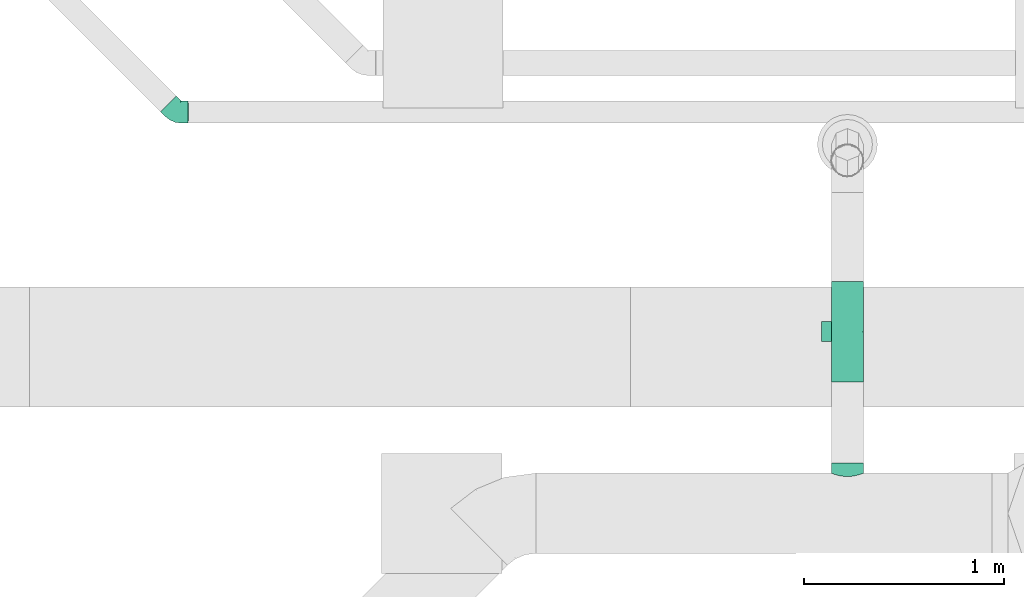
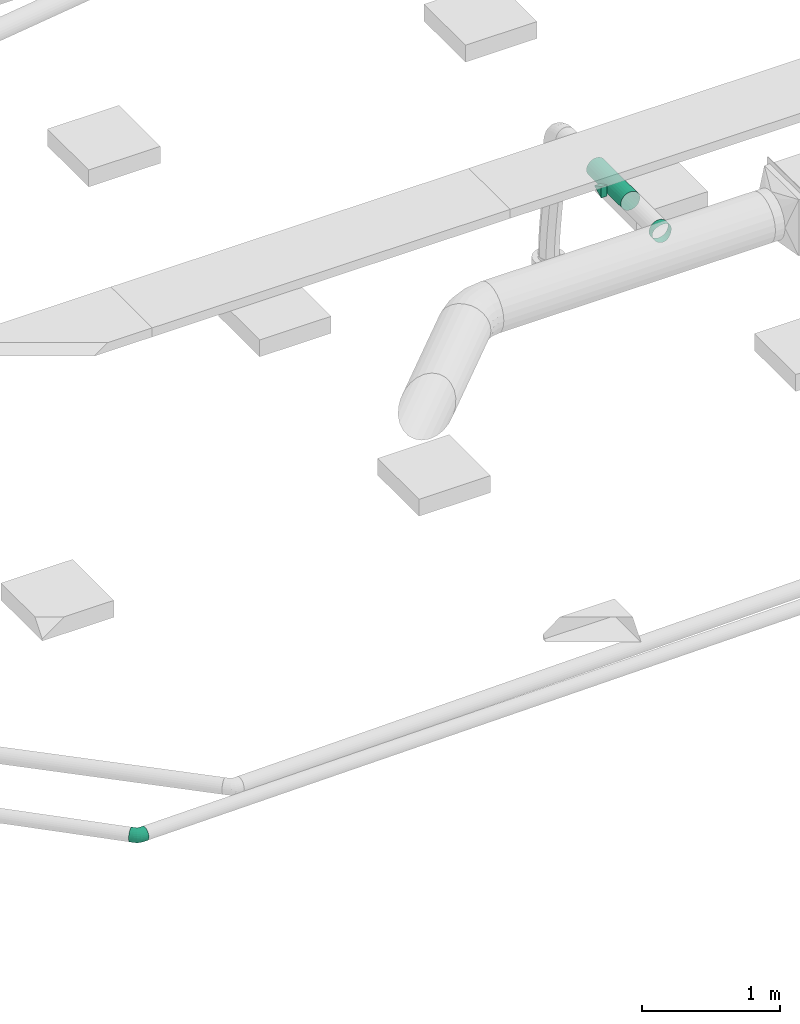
# One storey, part 148 of 374: 1 flow controller, 1 flow fitting, 1 flow segment.
"""IFC2X3 building model written with IfcOpenShell, lengths in metres."""

import ifcopenshell
import ifcopenshell.guid

model = None  # the IFC model being written
_history = None  # IfcOwnerHistory: only IFC2X3 demands one
_inside = {}  # id of a spatial element -> (the spatial element, [elements in it])
_under = {}  # id of a project, library or spatial element -> (it, [spatial elements below it])
_declared = {}  # id of a project -> (the project, [libraries it declares])
_typed = {}  # id of a type object -> (the type object, [elements of that type])
_made_of = {}  # id of a material, layer set ... -> (it, [elements and type objects made of it])


def new_model(schema):
    """Start an empty IFC model of exactly this schema.

    Asked for "IFC4X3", IfcOpenShell would pick the latest addendum, in which some entities
    have other attributes; the version numbers below select the first issue.
    IFC2X3 requires an IfcOwnerHistory on every rooted entity: one is made here for all.
    """
    global model, _history
    if schema == "IFC4X3":
        model = ifcopenshell.file(schema_version=(4, 3, 0, 0))
    else:
        model = ifcopenshell.file(schema=schema)
    _inside.clear()
    _under.clear()
    _declared.clear()
    _typed.clear()
    _made_of.clear()
    _history = None
    if model.schema == "IFC2X3":
        org = make("IfcOrganization", Name="unknown")
        user = make(
            "IfcPersonAndOrganization",
            ThePerson=make("IfcPerson", FamilyName="unknown"),
            TheOrganization=org,
        )
        app = make(
            "IfcApplication",
            ApplicationDeveloper=org,
            Version="unknown",
            ApplicationFullName="unknown",
            ApplicationIdentifier="unknown",
        )
        _history = make(
            "IfcOwnerHistory",
            OwningUser=user,
            OwningApplication=app,
            ChangeAction="ADDED",
            CreationDate=0,
        )
    return model


def make(cls, **values):
    """One entity of the class cls with the attributes given. An attribute that is None is left unset."""
    return model.create_entity(
        cls, **{name: value for name, value in values.items() if value is not None}
    )


def rooted(cls, **values):
    """An entity with a GlobalId (a new one), such as an element, a storey or a relation."""
    return make(cls, GlobalId=ifcopenshell.guid.new(), OwnerHistory=_history, **values)


def si_unit(unit_type, name, prefix=None):
    """IfcSIUnit, for example si_unit("LENGTHUNIT", "METRE", prefix="MILLI")."""
    return make("IfcSIUnit", UnitType=unit_type, Prefix=prefix, Name=name)


def assignment(units):
    """IfcUnitAssignment: the units of a project."""
    return None if units is None else make("IfcUnitAssignment", Units=units)


def point(xyz):
    """IfcCartesianPoint."""
    return None if xyz is None else make("IfcCartesianPoint", Coordinates=xyz)


def direction(xyz):
    """IfcDirection."""
    return None if xyz is None else make("IfcDirection", DirectionRatios=xyz)


def frame(location, z_axis=None, x_axis=None):
    """IfcAxis2Placement3D, a coordinate frame: its origin and axes. An axis left out is left unset."""
    return make(
        "IfcAxis2Placement3D",
        Location=point(location),
        Axis=direction(z_axis),
        RefDirection=direction(x_axis),
    )


def origin():
    """The frame at (0, 0, 0) with its axes left unset."""
    return frame((0.0, 0.0, 0.0))


def place(relative_to, where):
    """IfcLocalPlacement: puts the frame where relative to a parent placement (None: the world)."""
    return make(
        "IfcLocalPlacement", PlacementRelTo=relative_to, RelativePlacement=where
    )


def context(
    kind, dimensions, precision=None, world=None, true_north=None, identifier=None
):
    """IfcGeometricRepresentationContext, for example the 3D "Model" context."""
    return make(
        "IfcGeometricRepresentationContext",
        ContextIdentifier=identifier,
        ContextType=kind,
        CoordinateSpaceDimension=dimensions,
        Precision=precision,
        WorldCoordinateSystem=world,
        TrueNorth=true_north,
    )


def subcontext(parent, identifier, kind, view, scale=None):
    """IfcGeometricRepresentationSubContext, for example "Body" below "Model"."""
    return make(
        "IfcGeometricRepresentationSubContext",
        ContextIdentifier=identifier,
        ContextType=kind,
        ParentContext=parent,
        TargetScale=scale,
        TargetView=view,
    )


def project(units=None, contexts=None):
    """IfcProject with its units and contexts."""
    return rooted(
        "IfcProject",
        Name="project",
        RepresentationContexts=contexts,
        UnitsInContext=assignment(units),
    )


def spatial(cls, under=None, at=None, **own):
    """A site, building, storey or space (cls), placed at a placement, below another one or the project."""
    s = rooted(cls, ObjectPlacement=at, **own)
    if under is not None:
        _under.setdefault(under.id(), (under, []))[1].append(s)
    return s


def faces_of(points, faces, orient=None, outer=None):
    """IfcFace entities. A face is a list of loops; a loop is a list of indices into points, from 0.

    orient and outer hold one flag for each loop. By default every Orientation is true, the
    first loop of a face is its IfcFaceOuterBound and the others are IfcFaceBound.
    """
    made = []
    for i, loops in enumerate(faces):
        bounds = []
        for j, loop in enumerate(loops):
            is_outer = j == 0 if outer is None else outer[i][j]
            bounds.append(
                make(
                    "IfcFaceOuterBound" if is_outer else "IfcFaceBound",
                    Bound=make("IfcPolyLoop", Polygon=[points[k] for k in loop]),
                    Orientation=True if orient is None else orient[i][j],
                )
            )
        made.append(make("IfcFace", Bounds=bounds))
    return made


def open_shell(faces, orient=None, outer=None):
    """The faces of one IfcOpenShell. surface_model builds it on its shared points."""
    return ("IfcOpenShell", faces, orient, outer)


def surface_model(cls, points, shells):
    """IfcFaceBasedSurfaceModel or IfcShellBasedSurfaceModel (cls): surfaces that need not close."""
    shared = [point(p) for p in points]
    made = [make(c, CfsFaces=faces_of(shared, fs, o, b)) for c, fs, o, b in shells]
    if cls == "IfcFaceBasedSurfaceModel":
        return make(cls, FbsmFaces=made)
    return make(cls, SbsmBoundary=made)


def shape(context_of_items, identifier, shape_type, items):
    """IfcShapeRepresentation: the items that make up one representation, for example the "Body"."""
    return make(
        "IfcShapeRepresentation",
        ContextOfItems=context_of_items,
        RepresentationIdentifier=identifier,
        RepresentationType=shape_type,
        Items=items,
    )


def source(mapping_origin, context_of_items, identifier, shape_type, items):
    """IfcRepresentationMap: a shape defined once, which mapped items show again and again."""
    return make(
        "IfcRepresentationMap",
        MappingOrigin=mapping_origin,
        MappedRepresentation=shape(context_of_items, identifier, shape_type, items),
    )


def transform(
    local_origin,
    x_axis=None,
    y_axis=None,
    z_axis=None,
    scale=None,
    scale2=None,
    scale3=None,
    uniform=True,
):
    """IfcCartesianTransformationOperator3D, or its non-uniform kind. x_axis, y_axis, z_axis: its Axis1, 2, 3."""
    if uniform:
        return make(
            "IfcCartesianTransformationOperator3D",
            Axis1=direction(x_axis),
            Axis2=direction(y_axis),
            LocalOrigin=point(local_origin),
            Scale=scale,
            Axis3=direction(z_axis),
        )
    return make(
        "IfcCartesianTransformationOperator3DnonUniform",
        Axis1=direction(x_axis),
        Axis2=direction(y_axis),
        LocalOrigin=point(local_origin),
        Scale=scale,
        Axis3=direction(z_axis),
        Scale2=scale2,
        Scale3=scale3,
    )


def mapped(mapping_source, mapping_target):
    """IfcMappedItem: shows the shape of a source again, moved by a transform."""
    return make(
        "IfcMappedItem", MappingSource=mapping_source, MappingTarget=mapping_target
    )


def made_of(thing, what):
    """Note that an element or type object is made of a material, layer set ...; save() writes the relation."""
    if what is not None:
        _made_of.setdefault(what.id(), (what, []))[1].append(thing)
    return thing


def element(
    cls,
    number,
    at=None,
    inside=None,
    cuts=None,
    type_object=None,
    material=None,
    context=None,
    identifier="Body",
    shape_type=None,
    held_by="IfcProductDefinitionShape",
    body=None,
    shapes=None,
    **own,
):
    """One element of the class cls, such as IfcWall. Its Tag is "e" and its number.

    at: its placement. inside: the storey or other place that contains it. cuts: it is an
    opening in that element (IfcRelVoidsElement). A single representation is given by context,
    identifier, shape_type and body (its items); several are given by shapes. held_by: the class
    of the entity that holds the representations. save() writes the other relations.
    """
    e = rooted(cls, Tag="e%d" % number, ObjectPlacement=at, **own)
    if body is not None:
        shapes = [shape(context, identifier, shape_type, body)]
    if shapes is not None:
        e.Representation = make(held_by, Representations=shapes)
    if inside is not None:
        _inside.setdefault(inside.id(), (inside, []))[1].append(e)
    if cuts is not None:
        rooted(
            "IfcRelVoidsElement", RelatingBuildingElement=cuts, RelatedOpeningElement=e
        )
    if type_object is not None:
        _typed.setdefault(type_object.id(), (type_object, []))[1].append(e)
    return made_of(e, material)


def aggregate(whole, parts):
    """IfcRelAggregates: a whole, such as a stair, and the parts it consists of."""
    return rooted("IfcRelAggregates", RelatingObject=whole, RelatedObjects=parts)


def save(model, path):
    """Write the relations noted so far, then the file.

    IfcRelAggregates (storeys below a building ...), IfcRelContainedInSpatialStructure (elements
    in a storey), IfcRelDefinesByType, IfcRelAssociatesMaterial and IfcRelDeclares: one each for
    every whole, place, type object, material and project.
    """
    for whole, parts in _under.values():
        aggregate(whole, parts)
    for where, things in _inside.values():
        rooted(
            "IfcRelContainedInSpatialStructure",
            RelatedElements=things,
            RelatingStructure=where,
        )
    for kind, things in _typed.values():
        rooted("IfcRelDefinesByType", RelatedObjects=things, RelatingType=kind)
    for what, things in _made_of.values():
        rooted("IfcRelAssociatesMaterial", RelatedObjects=things, RelatingMaterial=what)
    for by, libraries in _declared.values():
        rooted("IfcRelDeclares", RelatingContext=by, RelatedDefinitions=libraries)
    model.write(path)


model = new_model("IFC2X3")

# Units and contexts
model_context = context("Model", 3, precision=1e-05, world=origin(), true_north=direction((-0.4480736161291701, 0.8939966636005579)))
body_context = subcontext(model_context, "Body", "Model", "MODEL_VIEW")
ifc_project = project(units=[si_unit("LENGTHUNIT", "METRE"), si_unit("AREAUNIT", "SQUARE_METRE"), si_unit("VOLUMEUNIT", "CUBIC_METRE"), si_unit("PLANEANGLEUNIT", "RADIAN"), si_unit("THERMODYNAMICTEMPERATUREUNIT", "KELVIN"), si_unit("MASSUNIT", "GRAM", prefix="KILO"), si_unit("TIMEUNIT", "SECOND")], contexts=[model_context])

# Site, building, storey
site_placement = place(None, origin())
site = spatial("IfcSite", under=ifc_project, at=site_placement, Name="Site 1", CompositionType="ELEMENT")
building_placement = place(site_placement, origin())
building = spatial("IfcBuilding", under=site, at=building_placement, Name="Undefined", CompositionType="ELEMENT")
storey_placement = place(building_placement, origin())
storey = spatial("IfcBuildingStorey", under=building, at=storey_placement, Name="Rez de chauss\x8ee", CompositionType="ELEMENT", Elevation=0.0)

# Flow segment
shared_shape_1 = source(origin(), body_context, "Body", "SurfaceModel", [
    surface_model("IfcFaceBasedSurfaceModel", [(0.001074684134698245, 0.0208841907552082, 0.0), (0.0, 0.0, 0.0), (0.05107468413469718, 0.0, 0.0), (0.05107468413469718, 0.0208841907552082, 0.0), (-0.002966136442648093, -0.02017257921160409, -0.005405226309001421), (0.05107468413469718, -0.02017257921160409, -0.005405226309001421), (-0.007092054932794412, -0.03825881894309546, -0.01584732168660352), (0.05107468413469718, -0.03825881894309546, -0.01584732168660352), (-0.011308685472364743, -0.0530261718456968, -0.030614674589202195), (0.05107468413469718, -0.0530261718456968, -0.030614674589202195), (-0.014456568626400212, -0.06346826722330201, -0.04870091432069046), (0.05107468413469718, -0.06346826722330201, -0.04870091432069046), (-0.015622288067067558, -0.06887349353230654, -0.0688734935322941), (0.05107468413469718, -0.06887349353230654, -0.0688734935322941), (-0.014456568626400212, -0.06887349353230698, -0.08975768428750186), (0.05107468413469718, -0.06887349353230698, -0.08975768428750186), (-0.011308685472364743, -0.06346826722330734, -0.10993026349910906), (0.05107468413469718, -0.06346826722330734, -0.10993026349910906), (-0.007092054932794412, -0.053026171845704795, -0.12801650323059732), (0.05107468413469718, -0.053026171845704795, -0.12801650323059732), (-0.002966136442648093, -0.03825881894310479, -0.1427838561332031), (0.05107468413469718, -0.03825881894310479, -0.1427838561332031), (0.0, -0.020172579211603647, -0.15322595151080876), (0.05107468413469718, -0.020172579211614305, -0.1532259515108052), (0.001074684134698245, -1.2434497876e-14, -0.15863117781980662), (0.05107468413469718, -1.2434497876e-14, -0.15863117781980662), (0.0, 0.020884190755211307, -0.15863117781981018), (0.05107468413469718, 0.020884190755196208, -0.15863117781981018), (-0.002966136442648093, 0.04105676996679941, -0.1532259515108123), (0.05107468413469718, 0.04105676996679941, -0.1532259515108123), (-0.007092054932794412, 0.05914300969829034, -0.14278385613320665), (0.05107468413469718, 0.05914300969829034, -0.14278385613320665), (-0.011308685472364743, 0.07391036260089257, -0.12801650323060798), (0.05107468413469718, 0.07391036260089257, -0.12801650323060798), (-0.014456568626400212, 0.08435245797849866, -0.10993026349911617), (0.05107468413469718, 0.08435245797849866, -0.10993026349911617), (-0.015622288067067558, 0.08975768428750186, -0.08975768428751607), (0.05107468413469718, 0.08975768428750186, -0.08975768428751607), (-0.014456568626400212, 0.08975768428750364, -0.06887349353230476), (0.05107468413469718, 0.08975768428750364, -0.06887349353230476), (-0.011308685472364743, 0.0843524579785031, -0.048700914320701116), (0.05107468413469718, 0.0843524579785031, -0.048700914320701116), (-0.007092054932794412, 0.07391036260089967, -0.030614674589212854), (0.05107468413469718, 0.07391036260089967, -0.030614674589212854), (-0.002966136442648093, 0.05914300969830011, -0.015847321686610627), (0.05107468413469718, 0.05914300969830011, -0.015847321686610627), (0.0, 0.04105676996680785, -0.005405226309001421), (0.05107468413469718, 0.04105676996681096, -0.0054052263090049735)], [open_shell([[[0, 1, 2, 3]], [[1, 4, 5, 2]], [[4, 6, 7, 5]], [[6, 8, 9, 7]], [[8, 10, 11, 9]], [[10, 12, 13, 11]], [[12, 14, 15, 13]], [[14, 16, 17, 15]], [[16, 18, 19, 17]], [[18, 20, 21, 19]], [[20, 22, 23, 21]], [[22, 24, 25, 23]], [[24, 26, 27, 25]], [[26, 28, 29, 27]], [[28, 30, 31, 29]], [[30, 32, 33, 31]], [[32, 34, 35, 33]], [[34, 36, 37, 35]], [[36, 38, 39, 37]], [[38, 40, 41, 39]], [[40, 42, 43, 41]], [[42, 44, 45, 43]], [[44, 46, 47, 45]], [[46, 0, 3, 47]]])]),
])
flow_segment_placement = place(storey_placement, origin())
element("IfcFlowSegment", 1, at=flow_segment_placement, inside=storey, Name="Piquage équerre circulaire", ObjectType="Piquage équerre circulaire", context=body_context, shape_type="MappedRepresentation", body=[
    mapped(shared_shape_1, transform((44.36997424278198, 15.312499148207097, 3.779294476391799), x_axis=(0.0, 1.0, 0.0), y_axis=(0.1305261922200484, 0.0, 0.9914448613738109), z_axis=(0.9914448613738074, 0.0, -0.13052619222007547))),
])

# Flow fitting
shared_shape_2 = source(origin(), body_context, "Body", "SurfaceModel", [
    surface_model("IfcFaceBasedSurfaceModel", [(0.0, 0.014357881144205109, -3.552713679e-15), (0.0, 0.0, 0.0), (0.03509999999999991, 1.776356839e-15, -1.776356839e-15), (0.03509999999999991, 0.014357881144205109, 0.0), (0.0, -0.01386864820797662, -0.0037160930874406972), (0.035100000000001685, -0.01386864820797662, -0.003716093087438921), (0.0, -0.026302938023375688, -0.010895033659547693), (0.03509999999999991, -0.026302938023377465, -0.010895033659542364), (0.0, -0.03645549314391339, -0.021047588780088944), (0.035100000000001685, -0.03645549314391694, -0.021047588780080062), (0.0, -0.04363443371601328, -0.033481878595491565), (0.035100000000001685, -0.043634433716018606, -0.03348187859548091), (0.0, -0.04735052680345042, -0.04735052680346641), (0.03510000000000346, -0.04735052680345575, -0.04735052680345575), (0.0, -0.04735052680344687, -0.06170840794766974), (0.035100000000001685, -0.047350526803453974, -0.061708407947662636), (0.0, -0.04363443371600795, -0.07557705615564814), (0.035100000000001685, -0.04363443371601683, -0.07557705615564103), (0.0, -0.03645549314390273, -0.08801134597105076), (0.035100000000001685, -0.03645549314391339, -0.08801134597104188), (0.0, -0.026302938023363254, -0.0981639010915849), (0.03510000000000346, -0.026302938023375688, -0.09816390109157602), (0.0, -0.013868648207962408, -0.1053428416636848), (0.03510000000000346, -0.013868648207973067, -0.10534284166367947), (0.0, 1.5987211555e-14, -0.10905893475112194), (0.03510000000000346, 5.329070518e-15, -0.10905893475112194), (0.0, 0.014357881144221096, -0.10905893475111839), (0.035100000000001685, 0.014357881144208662, -0.10905893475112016), (0.0, 0.028226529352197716, -0.10534284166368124), (0.03510000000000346, 0.02822652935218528, -0.10534284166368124), (0.0, 0.040660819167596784, -0.0981639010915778), (0.03510000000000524, 0.040660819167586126, -0.09816390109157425), (0.0, 0.05081337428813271, -0.08801134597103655), (0.035100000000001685, 0.050813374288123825, -0.08801134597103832), (0.0, 0.05799231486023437, -0.07557705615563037), (0.035100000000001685, 0.05799231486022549, -0.07557705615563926), (0.0, 0.06170840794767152, -0.06170840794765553), (0.035100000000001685, 0.06170840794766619, -0.06170840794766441), (0.0, 0.061708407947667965, -0.0473505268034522), (0.035100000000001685, 0.061708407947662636, -0.0473505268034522), (0.0, 0.05799231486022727, -0.033481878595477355), (0.03510000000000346, 0.057992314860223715, -0.033481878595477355), (0.0, 0.050813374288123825, -0.021047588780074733), (0.035100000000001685, 0.05081337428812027, -0.021047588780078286), (0.0, 0.04066081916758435, -0.010895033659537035), (0.035100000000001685, 0.040660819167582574, -0.010895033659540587), (0.0, 0.028226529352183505, -0.0037160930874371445), (0.035100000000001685, 0.028226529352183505, -0.003716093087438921), (0.06308504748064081, -0.04369774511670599, -0.06218930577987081), (0.06357009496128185, -0.04363443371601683, -0.04783975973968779), (0.08916296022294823, -0.03298833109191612, -0.0635992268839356), (0.09010000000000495, -0.032739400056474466, -0.04927411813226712), (0.11155657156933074, -0.015952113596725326, -0.06584208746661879), (0.11288174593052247, -0.015407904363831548, -0.051555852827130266), (0.061662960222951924, -0.040167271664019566, -0.07603351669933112), (0.08641569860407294, -0.030002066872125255, -0.07737179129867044), (0.10767135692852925, -0.013831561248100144, -0.07950067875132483), (0.05940074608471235, -0.03328360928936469, -0.08842893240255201), (0.08204543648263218, -0.023984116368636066, -0.0896532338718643), (0.10149087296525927, -0.009190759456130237, -0.09160081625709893), (0.05645257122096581, -0.02351586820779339, -0.09853082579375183), (0.07635000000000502, -0.015344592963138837, -0.09960659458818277), (0.09343630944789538, -0.0023459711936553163, -0.10131789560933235), (0.053019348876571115, -0.011529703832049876, -0.1056507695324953), (0.06971752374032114, -0.004672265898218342, -0.10655356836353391), (0.08405657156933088, 0.006236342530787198, -0.10798971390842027), (0.049335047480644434, 0.0018580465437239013, -0.10930355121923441), (0.06260000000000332, 0.007305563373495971, -0.1100207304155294), (0.07399087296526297, 0.015971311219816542, -0.11116159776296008), (0.0456507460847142, 0.015735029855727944, -0.1092402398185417), (0.05548247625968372, 0.01977262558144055, -0.10977179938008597), (0.0639251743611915, 0.0261955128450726, -0.11061738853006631), (0.042217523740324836, 0.029155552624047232, -0.10546514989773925), (0.04885000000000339, 0.03187931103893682, -0.10582373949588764), (0.05454543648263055, 0.03621218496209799, -0.10639417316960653), (0.03926934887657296, 0.04120502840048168, -0.09823554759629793), (0.043154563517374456, 0.04280056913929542, -0.09844560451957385), (0.046490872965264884, 0.045338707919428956, -0.09877975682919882), (0.03700713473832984, 0.05106230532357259, -0.08804411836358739), (0.03878430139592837, 0.05179213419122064, -0.08814020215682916), (0.04031038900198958, 0.052953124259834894, -0.08829304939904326), (0.03558504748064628, 0.058055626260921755, -0.07558539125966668), (0.03603703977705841, 0.0582412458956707, -0.07560982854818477), (0.03642517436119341, 0.05853652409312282, -0.07564870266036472), (0.035585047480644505, 0.0617717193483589, -0.047358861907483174), (0.036037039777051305, 0.0619573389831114, -0.04738329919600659), (0.03642517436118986, 0.06225261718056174, -0.04742217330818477), (0.037007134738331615, 0.05824124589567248, -0.03351465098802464), (0.03878430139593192, 0.05897107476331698, -0.03361073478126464), (0.04031038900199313, 0.06013206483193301, -0.03376358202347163), (0.039269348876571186, 0.05135758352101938, -0.02111923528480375), (0.04315456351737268, 0.05295312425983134, -0.021329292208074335), (0.046490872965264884, 0.05549126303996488, -0.021663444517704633), (0.04221752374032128, 0.041589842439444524, -0.01101734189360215), (0.04884999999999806, 0.044313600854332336, -0.011375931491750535), (0.054545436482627, 0.04864647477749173, -0.01194636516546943), (0.04565074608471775, 0.029603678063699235, -0.003897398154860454), (0.05548247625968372, 0.03364127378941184, -0.004428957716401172), (0.0639251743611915, 0.040064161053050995, -0.005274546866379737), (0.04933504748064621, 0.016215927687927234, -0.0002446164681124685), (0.06260000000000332, 0.021663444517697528, -0.000961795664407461), (0.07399087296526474, 0.030329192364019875, -0.002102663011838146), (0.05301934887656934, 0.0023389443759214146, -0.0003079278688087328), (0.06971752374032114, 0.009196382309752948, -0.0012107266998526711), (0.08405657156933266, 0.020104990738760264, -0.0026468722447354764), (0.05645257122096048, -0.011081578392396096, -0.004083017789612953), (0.0763499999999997, -0.002910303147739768, -0.0051587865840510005), (0.09343630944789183, 0.010088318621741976, -0.006870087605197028), (0.059400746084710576, -0.023131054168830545, -0.011312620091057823), (0.08204543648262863, -0.01383156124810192, -0.012536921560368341), (0.1014908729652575, 0.0009617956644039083, -0.01448450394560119), (0.0616629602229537, -0.032988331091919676, -0.021504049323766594), (0.0864156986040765, -0.022823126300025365, -0.022842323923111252), (0.10767135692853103, -0.006652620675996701, -0.024971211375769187), (0.06308504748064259, -0.03998165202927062, -0.033962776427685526), (0.08916296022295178, -0.02927223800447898, -0.035372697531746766), (0.1115565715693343, -0.012236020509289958, -0.03761555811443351), (0.1363760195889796, 0.008655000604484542, -0.06908167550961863), (0.13770119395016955, 0.00919920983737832, -0.05479544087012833), (0.13249080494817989, 0.0107755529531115, -0.08274026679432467), (0.12631032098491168, 0.01541635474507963, -0.09484040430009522), (0.11825575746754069, 0.02226114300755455, -0.10455748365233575), (0.1088760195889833, 0.03084345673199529, -0.11122930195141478), (0.09881032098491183, 0.04057842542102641, -0.11440118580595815), (0.08874462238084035, 0.05080262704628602, -0.11385697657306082), (0.07936488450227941, 0.06081929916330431, -0.10963376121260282), (0.07131032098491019, 0.0699458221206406, -0.10201934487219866), (0.06512983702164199, 0.07756023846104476, -0.09153263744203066), (0.06124462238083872, 0.08314363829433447, -0.07888829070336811), (0.059919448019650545, 0.08631552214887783, -0.0649479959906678), (0.06124462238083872, 0.08685973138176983, -0.05066176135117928), (0.06512983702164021, 0.08473917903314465, -0.03700317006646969), (0.07131032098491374, 0.08009837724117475, -0.024903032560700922), (0.07936488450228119, 0.07325358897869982, -0.015185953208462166), (0.0887446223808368, 0.06467127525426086, -0.008514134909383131), (0.09881032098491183, 0.05493630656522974, -0.005342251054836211), (0.10887601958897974, 0.04471210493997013, -0.0058864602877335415), (0.11825575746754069, 0.03469543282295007, -0.010109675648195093), (0.1263103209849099, 0.02556890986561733, -0.017724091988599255), (0.13249080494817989, 0.017954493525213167, -0.0282107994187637), (0.13637601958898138, 0.012371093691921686, -0.04085514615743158)], [open_shell([[[0, 1, 2, 3]], [[1, 4, 5, 2]], [[4, 6, 7, 5]], [[6, 8, 9, 7]], [[8, 10, 11, 9]], [[10, 12, 13, 11]], [[12, 14, 15, 13]], [[14, 16, 17, 15]], [[16, 18, 19, 17]], [[18, 20, 21, 19]], [[20, 22, 23, 21]], [[22, 24, 25, 23]], [[24, 26, 27, 25]], [[26, 28, 29, 27]], [[28, 30, 31, 29]], [[30, 32, 33, 31]], [[32, 34, 35, 33]], [[34, 36, 37, 35]], [[36, 38, 39, 37]], [[38, 40, 41, 39]], [[40, 42, 43, 41]], [[42, 44, 45, 43]], [[44, 46, 47, 45]], [[46, 0, 3, 47]], [[13, 15, 48, 49]], [[49, 48, 50, 51]], [[51, 50, 52, 53]], [[15, 17, 54, 48]], [[48, 54, 55, 50]], [[50, 55, 56, 52]], [[17, 19, 57, 54]], [[54, 57, 58, 55]], [[55, 58, 59, 56]], [[19, 21, 60, 57]], [[57, 60, 61, 58]], [[58, 61, 62, 59]], [[21, 23, 63, 60]], [[60, 63, 64, 61]], [[61, 64, 65, 62]], [[23, 25, 66, 63]], [[63, 66, 67, 64]], [[64, 67, 68, 65]], [[25, 27, 69, 66]], [[66, 69, 70, 67]], [[67, 70, 71, 68]], [[27, 29, 72, 69]], [[69, 72, 73, 70]], [[70, 73, 74, 71]], [[29, 31, 75, 72]], [[72, 75, 76, 73]], [[73, 76, 77, 74]], [[31, 33, 78, 75]], [[75, 78, 79, 76]], [[76, 79, 80, 77]], [[33, 35, 81, 78]], [[78, 81, 82, 79]], [[79, 82, 83, 80]], [[35, 37, 81]], [[81, 37, 82]], [[82, 37, 83]], [[37, 39, 84]], [[37, 84, 85]], [[37, 85, 86]], [[39, 41, 87, 84]], [[84, 87, 88, 85]], [[85, 88, 89, 86]], [[41, 43, 90, 87]], [[87, 90, 91, 88]], [[88, 91, 92, 89]], [[43, 45, 93, 90]], [[90, 93, 94, 91]], [[91, 94, 95, 92]], [[45, 47, 96, 93]], [[93, 96, 97, 94]], [[94, 97, 98, 95]], [[47, 3, 99, 96]], [[96, 99, 100, 97]], [[97, 100, 101, 98]], [[3, 2, 102, 99]], [[99, 102, 103, 100]], [[100, 103, 104, 101]], [[2, 5, 105, 102]], [[102, 105, 106, 103]], [[103, 106, 107, 104]], [[5, 7, 108, 105]], [[105, 108, 109, 106]], [[106, 109, 110, 107]], [[7, 9, 111, 108]], [[108, 111, 112, 109]], [[109, 112, 113, 110]], [[9, 11, 114, 111]], [[111, 114, 115, 112]], [[112, 115, 116, 113]], [[11, 13, 49, 114]], [[114, 49, 51, 115]], [[115, 51, 53, 116]], [[53, 52, 117, 118]], [[52, 56, 119, 117]], [[56, 59, 120, 119]], [[59, 62, 121, 120]], [[62, 65, 122, 121]], [[65, 68, 123, 122]], [[68, 71, 124, 123]], [[71, 74, 125, 124]], [[74, 77, 126, 125]], [[77, 80, 127, 126]], [[80, 83, 128, 127]], [[83, 37, 129, 128]], [[37, 86, 130, 129]], [[86, 89, 131, 130]], [[89, 92, 132, 131]], [[92, 95, 133, 132]], [[95, 98, 134, 133]], [[98, 101, 135, 134]], [[101, 104, 136, 135]], [[104, 107, 137, 136]], [[107, 110, 138, 137]], [[110, 113, 139, 138]], [[113, 116, 140, 139]], [[116, 53, 118, 140]]])]),
])
flow_fitting_placement = place(storey_placement, origin())
element("IfcFlowFitting", 2, at=flow_fitting_placement, inside=storey, Name="PE-HD coude 45°", ObjectType="PE-HD coude 45°", context=body_context, shape_type="MappedRepresentation", body=[
    mapped(shared_shape_2, transform((41.00291346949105, 17.10189629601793, -1.5208577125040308), x_axis=(-0.9998875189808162, 0.0, -0.014998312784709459), y_axis=(0.0019576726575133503, 0.9914448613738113, -0.13051151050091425), z_axis=(0.01487000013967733, -0.13052619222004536, -0.9913333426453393))),
])

# Flow controller
shared_shape_3 = source(origin(), body_context, "Body", "SurfaceModel", [
    surface_model("IfcFaceBasedSurfaceModel", [(0.16999999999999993, 0.020884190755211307, -4.4408921e-16), (0.0, 0.020884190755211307, 0.0), (0.0, 0.0, 0.0), (0.1727259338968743, 0.0, -4.4408921e-16), (0.0, -0.020172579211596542, -0.005405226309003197), (0.18071796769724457, -0.020172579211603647, -0.005405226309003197), (0.0, -0.03825881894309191, -0.015847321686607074), (0.19343145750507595, -0.038258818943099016, -0.01584732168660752), (0.0, -0.05302617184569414, -0.0306146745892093), (0.21000000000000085, -0.05302617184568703, -0.0306146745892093), (0.0, -0.06346826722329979, -0.04870091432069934), (0.22929447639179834, -0.06346826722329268, -0.04870091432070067), (0.0, -0.06887349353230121, -0.06887349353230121), (0.25, -0.06887349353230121, -0.06887349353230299), (0.0, -0.06887349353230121, -0.08975768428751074), (0.27070552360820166, -0.0688734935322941, -0.08975768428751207), (0.0, -0.06346826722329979, -0.10993026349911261), (0.2900000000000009, -0.06346826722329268, -0.10993026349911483), (0.0, -0.05302617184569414, -0.12801650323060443), (0.30656854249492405, -0.05302617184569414, -0.12801650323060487), (0.0, -0.038258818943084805, -0.14278385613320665), (0.3192820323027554, -0.038258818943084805, -0.14278385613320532), (0.0, -0.020172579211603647, -0.15322595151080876), (0.3272740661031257, -0.020172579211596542, -0.15322595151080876), (0.0, 7.105427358e-15, -0.15863117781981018), (0.33000000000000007, 7.105427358e-15, -0.15863117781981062), (0.0, 0.020884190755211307, -0.15863117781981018), (0.3272740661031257, 0.020884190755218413, -0.1586311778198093), (0.0, 0.04105676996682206, -0.15322595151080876), (0.3192820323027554, 0.04105676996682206, -0.15322595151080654), (0.0, 0.05914300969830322, -0.1427838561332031), (0.30656854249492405, 0.05914300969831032, -0.14278385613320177), (0.0, 0.07391036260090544, -0.12801650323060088), (0.2900000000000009, 0.07391036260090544, -0.12801650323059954), (0.0, 0.0843524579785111, -0.10993026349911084), (0.27070552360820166, 0.0843524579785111, -0.10993026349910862), (0.0, 0.08975768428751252, -0.08975768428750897), (0.25, 0.08975768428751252, -0.08975768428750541), (0.0, 0.08975768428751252, -0.06887349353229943), (0.22929447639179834, 0.08975768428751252, -0.06887349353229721), (0.0, 0.0843524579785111, -0.048700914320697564), (0.21000000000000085, 0.0843524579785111, -0.04870091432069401), (0.0, 0.07391036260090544, -0.030614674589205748), (0.19343145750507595, 0.07391036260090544, -0.030614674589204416), (0.0, 0.05914300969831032, -0.015847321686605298), (0.18071796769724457, 0.05914300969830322, -0.01584732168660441), (0.0, 0.04105676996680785, -0.005405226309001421), (0.1727259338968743, 0.041056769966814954, -0.005405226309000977), (0.5, 0.020884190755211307, -4.4408921e-16), (0.5, 0.0, 0.0), (0.5, -0.020172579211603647, -0.005405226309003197), (0.5, -0.038258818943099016, -0.01584732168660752), (0.5, -0.05302617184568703, -0.0306146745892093), (0.5, -0.06346826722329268, -0.04870091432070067), (0.5, -0.06887349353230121, -0.06887349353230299), (0.5, -0.0688734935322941, -0.08975768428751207), (0.5, -0.06346826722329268, -0.10993026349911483), (0.5, -0.05302617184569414, -0.12801650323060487), (0.5, -0.038258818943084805, -0.14278385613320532), (0.5, -0.020172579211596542, -0.15322595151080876), (0.5, 7.105427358e-15, -0.15863117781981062), (0.5, 0.020884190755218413, -0.1586311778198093), (0.5, 0.04105676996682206, -0.15322595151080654), (0.5, 0.05914300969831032, -0.14278385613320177), (0.5, 0.07391036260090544, -0.12801650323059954), (0.5, 0.0843524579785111, -0.10993026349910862), (0.5, 0.08975768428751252, -0.08975768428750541), (0.5, 0.08975768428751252, -0.06887349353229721), (0.5, 0.0843524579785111, -0.04870091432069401), (0.5, 0.07391036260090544, -0.030614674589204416), (0.5, 0.05914300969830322, -0.01584732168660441), (0.5, 0.041056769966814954, -0.005405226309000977), (0.25, 0.09080189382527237, -0.0818261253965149), (0.24792944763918, 0.09076631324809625, -0.08209638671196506), (0.24792944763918, -0.06786486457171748, -0.06121219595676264), (0.25, -0.06782928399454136, -0.06094193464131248), (0.24600000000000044, 0.09066199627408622, -0.08288875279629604), (0.24600000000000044, -0.06796918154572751, -0.062004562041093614), (0.2443431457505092, 0.09049605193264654, -0.08414922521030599), (0.2443431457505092, -0.06813512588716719, -0.06326503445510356), (0.24307179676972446, 0.090279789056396, -0.08579190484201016), (0.24307179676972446, -0.06835138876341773, -0.06490771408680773), (0.24227259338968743, 0.09002794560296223, -0.08770484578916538), (0.24227259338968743, -0.0686032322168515, -0.06682065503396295), (0.24200000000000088, 0.08975768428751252, -0.08975768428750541), (0.24200000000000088, -0.06887349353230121, -0.06887349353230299), (0.24227259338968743, 0.0894874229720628, -0.09181052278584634), (0.24227259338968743, -0.06914375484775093, -0.07092633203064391), (0.24307179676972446, 0.08923557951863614, -0.09372346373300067), (0.24307179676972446, -0.06939559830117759, -0.07283927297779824), (0.2443431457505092, 0.0890193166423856, -0.09536614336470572), (0.2443431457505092, -0.06961186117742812, -0.0744819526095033), (0.24600000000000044, 0.08885337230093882, -0.09662661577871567), (0.24600000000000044, -0.06977780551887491, -0.07574242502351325), (0.24792944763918, 0.08874905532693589, -0.09741898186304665), (0.24792944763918, -0.06988212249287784, -0.07653479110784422), (0.25, 0.08871347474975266, -0.09768924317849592), (0.25, -0.06991770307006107, -0.0768050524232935), (0.25207055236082, 0.08874905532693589, -0.09741898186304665), (0.25207055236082, -0.06988212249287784, -0.07653479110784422), (0.25399999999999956, 0.08885337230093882, -0.09662661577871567), (0.25399999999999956, -0.06977780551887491, -0.07574242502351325), (0.2556568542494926, 0.0890193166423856, -0.09536614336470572), (0.2556568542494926, -0.06961186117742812, -0.0744819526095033), (0.2569282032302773, 0.08923557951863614, -0.09372346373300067), (0.2569282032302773, -0.06939559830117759, -0.07283927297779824), (0.25772740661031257, 0.0894874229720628, -0.09181052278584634), (0.25772740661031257, -0.06914375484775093, -0.07092633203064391), (0.2580000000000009, 0.08975768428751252, -0.08975768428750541), (0.2580000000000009, -0.06887349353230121, -0.06887349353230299), (0.25772740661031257, 0.09002794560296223, -0.08770484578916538), (0.25772740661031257, -0.0686032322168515, -0.06682065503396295), (0.2569282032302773, 0.090279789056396, -0.08579190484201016), (0.2569282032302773, -0.06835138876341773, -0.06490771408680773), (0.2556568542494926, 0.09049605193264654, -0.08414922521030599), (0.2556568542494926, -0.06813512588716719, -0.06326503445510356), (0.25399999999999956, 0.09066199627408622, -0.08288875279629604), (0.25399999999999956, -0.06796918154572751, -0.062004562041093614), (0.25207055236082, 0.09076631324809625, -0.08209638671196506), (0.25207055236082, -0.06786486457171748, -0.06121219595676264), (0.3000000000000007, -0.07539980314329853, -0.11844573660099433), (0.3000000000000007, -0.06234718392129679, -0.01930125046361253), (0.3000000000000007, -0.11191942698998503, -0.012774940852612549), (0.3000000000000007, -0.12497204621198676, -0.11191942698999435), (0.20000000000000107, -0.06887349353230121, -0.06887349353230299), (0.20000000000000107, -0.11844573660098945, -0.06234718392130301)], [open_shell([[[0, 1, 2, 3]], [[3, 2, 4, 5]], [[5, 4, 6, 7]], [[7, 6, 8, 9]], [[9, 8, 10, 11]], [[11, 10, 12, 13]], [[13, 12, 14, 15]], [[15, 14, 16, 17]], [[17, 16, 18, 19]], [[19, 18, 20, 21]], [[21, 20, 22, 23]], [[23, 22, 24, 25]], [[25, 24, 26, 27]], [[27, 26, 28, 29]], [[29, 28, 30, 31]], [[31, 30, 32, 33]], [[33, 32, 34, 35]], [[35, 34, 36, 37]], [[37, 36, 38, 39]], [[39, 38, 40, 41]], [[41, 40, 42, 43]], [[43, 42, 44, 45]], [[45, 44, 46, 47]], [[47, 46, 1, 0]], [[48, 0, 3, 49]], [[49, 3, 5, 50]], [[50, 5, 7, 51]], [[51, 7, 9, 52]], [[52, 9, 11, 53]], [[53, 11, 13, 54]], [[54, 13, 15, 55]], [[55, 15, 17, 56]], [[56, 17, 19, 57]], [[57, 19, 21, 58]], [[58, 21, 23, 59]], [[59, 23, 25, 60]], [[60, 25, 27, 61]], [[61, 27, 29, 62]], [[62, 29, 31, 63]], [[63, 31, 33, 64]], [[64, 33, 35, 65]], [[65, 35, 37, 66]], [[66, 37, 39, 67]], [[67, 39, 41, 68]], [[68, 41, 43, 69]], [[69, 43, 45, 70]], [[70, 45, 47, 71]], [[71, 47, 0, 48]], [[72, 73, 74, 75]], [[73, 76, 77, 74]], [[76, 78, 79, 77]], [[78, 80, 81, 79]], [[80, 82, 83, 81]], [[82, 84, 85, 83]], [[84, 86, 87, 85]], [[86, 88, 89, 87]], [[88, 90, 91, 89]], [[90, 92, 93, 91]], [[92, 94, 95, 93]], [[94, 96, 97, 95]], [[96, 98, 99, 97]], [[98, 100, 101, 99]], [[100, 102, 103, 101]], [[102, 104, 105, 103]], [[104, 106, 107, 105]], [[106, 108, 109, 107]], [[108, 110, 111, 109]], [[110, 112, 113, 111]], [[112, 114, 115, 113]], [[114, 116, 117, 115]], [[116, 118, 119, 117]], [[118, 72, 75, 119]], [[37, 73, 72]], [[37, 76, 73]], [[37, 78, 76]], [[37, 80, 78]], [[37, 82, 80]], [[37, 84, 82]], [[37, 86, 84]], [[37, 88, 86]], [[37, 90, 88]], [[37, 92, 90]], [[37, 94, 92]], [[37, 96, 94]], [[37, 98, 96]], [[37, 100, 98]], [[37, 102, 100]], [[37, 104, 102]], [[37, 106, 104]], [[37, 108, 106]], [[37, 110, 108]], [[37, 112, 110]], [[37, 114, 112]], [[37, 116, 114]], [[37, 118, 116]], [[37, 72, 118]], [[13, 119, 75]], [[13, 117, 119]], [[13, 115, 117]], [[13, 113, 115]], [[13, 111, 113]], [[13, 109, 111]], [[13, 107, 109]], [[13, 105, 107]], [[13, 103, 105]], [[13, 101, 103]], [[13, 99, 101]], [[13, 97, 99]], [[13, 95, 97]], [[13, 93, 95]], [[13, 91, 93]], [[13, 89, 91]], [[13, 87, 89]], [[13, 85, 87]], [[13, 83, 85]], [[13, 81, 83]], [[13, 79, 81]], [[13, 77, 79]], [[13, 74, 77]], [[13, 75, 74]], [[120, 121, 122, 123]], [[121, 124, 125, 122]], [[124, 120, 123, 125]], [[123, 122, 125]], [[124, 121, 120]]])]),
])
flow_controller_placement = place(storey_placement, origin())
element("IfcFlowController", 3, at=flow_controller_placement, inside=storey, Name="Clapet de réglage cylindrique", ObjectType="Clapet de réglage cylindrique", context=body_context, shape_type="MappedRepresentation", body=[
    mapped(shared_shape_3, transform((44.27199465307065, 16.270103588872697, 3.877274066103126), x_axis=(0.0, -1.0, 0.0), y_axis=(0.9914448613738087, 0.0, 0.13052619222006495), z_axis=(-0.13052619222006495, 0.0, 0.9914448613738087))),
])

save(model, "model.ifc")
